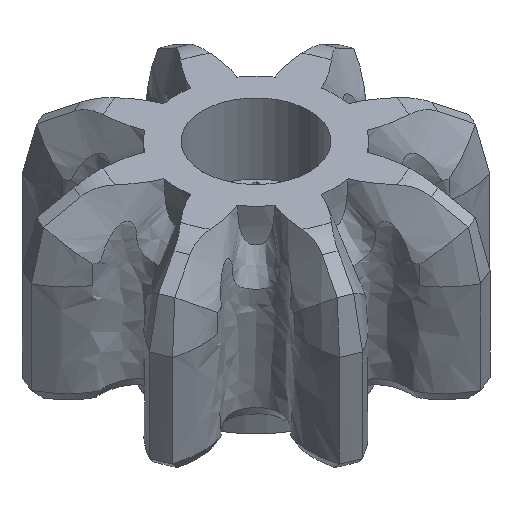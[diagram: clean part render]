
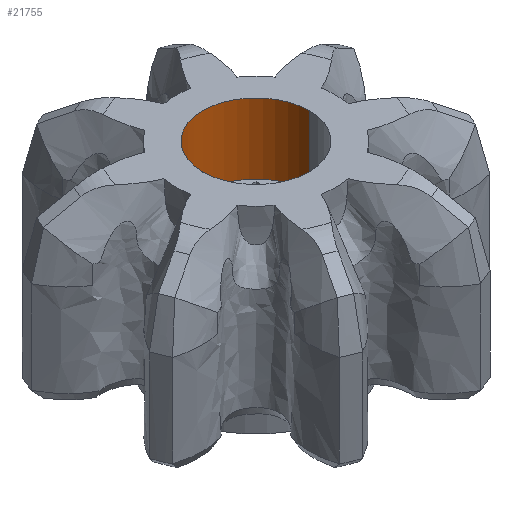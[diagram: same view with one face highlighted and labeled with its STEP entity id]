
A CAD part, isometric view. The second image highlights one B-rep face of the part: STEP entity #21755.
In plain terms, the highlighted cylindrical face has radius 2.4 mm (diameter 4.8 mm), a partial arc.
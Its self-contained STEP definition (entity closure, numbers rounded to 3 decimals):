
#1206 = AXIS2_PLACEMENT_3D ( 'NONE', #7380, #16489, #18064 ) ;
#1699 = CARTESIAN_POINT ( 'NONE',  ( 2.4, 0., 5.461 ) ) ;
#2007 = LINE ( 'NONE', #12082, #18624 ) ;
#2301 = EDGE_CURVE ( 'NONE', #9745, #5491, #2007, .T. ) ;
#3893 = DIRECTION ( 'NONE',  ( 0., 0., 1. ) ) ;
#3987 = DIRECTION ( 'NONE',  ( 1., 0., 0. ) ) ;
#4032 = CIRCLE ( 'NONE', #1206, 2.4 ) ;
#4116 = FACE_OUTER_BOUND ( 'NONE', #6185, .T. ) ;
#4226 = CARTESIAN_POINT ( 'NONE',  ( 0., 0., 9.525 ) ) ;
#4431 = DIRECTION ( 'NONE',  ( 0., 0., -1. ) ) ;
#5491 = VERTEX_POINT ( 'NONE', #1699 ) ;
#5947 = EDGE_CURVE ( 'NONE', #20197, #5491, #10078, .T. ) ;
#6185 = EDGE_LOOP ( 'NONE', ( #8698, #12411, #8845, #12528 ) ) ;
#7182 = CARTESIAN_POINT ( 'NONE',  ( 0., 0., 5.461 ) ) ;
#7380 = CARTESIAN_POINT ( 'NONE',  ( 0., 0., 2.286 ) ) ;
#8653 = EDGE_CURVE ( 'NONE', #10246, #20197, #17830, .T. ) ;
#8698 = ORIENTED_EDGE ( 'NONE', *, *, #8653, .F. ) ;
#8845 = ORIENTED_EDGE ( 'NONE', *, *, #2301, .T. ) ;
#9360 = DIRECTION ( 'NONE',  ( 0., 0., 1. ) ) ;
#9395 = AXIS2_PLACEMENT_3D ( 'NONE', #7182, #4431, #3987 ) ;
#9442 = VECTOR ( 'NONE', #9360, 1000. ) ;
#9745 = VERTEX_POINT ( 'NONE', #16411 ) ;
#10078 = CIRCLE ( 'NONE', #9395, 2.4 ) ;
#10246 = VERTEX_POINT ( 'NONE', #12016 ) ;
#12016 = CARTESIAN_POINT ( 'NONE',  ( -2.4, 0., 2.286 ) ) ;
#12082 = CARTESIAN_POINT ( 'NONE',  ( 2.4, 0., 9.525 ) ) ;
#12411 = ORIENTED_EDGE ( 'NONE', *, *, #17646, .F. ) ;
#12528 = ORIENTED_EDGE ( 'NONE', *, *, #5947, .F. ) ;
#12580 = CARTESIAN_POINT ( 'NONE',  ( -2.4, 0., 9.525 ) ) ;
#16093 = DIRECTION ( 'NONE',  ( 1., 0., 0. ) ) ;
#16205 = CYLINDRICAL_SURFACE ( 'NONE', #21457, 2.4 ) ;
#16411 = CARTESIAN_POINT ( 'NONE',  ( 2.4, 0., 2.286 ) ) ;
#16489 = DIRECTION ( 'NONE',  ( 0., 0., 1. ) ) ;
#17646 = EDGE_CURVE ( 'NONE', #9745, #10246, #4032, .T. ) ;
#17830 = LINE ( 'NONE', #12580, #9442 ) ;
#17886 = DIRECTION ( 'NONE',  ( 0., 0., 1. ) ) ;
#18064 = DIRECTION ( 'NONE',  ( 1., 0., 0. ) ) ;
#18624 = VECTOR ( 'NONE', #3893, 1000. ) ;
#20197 = VERTEX_POINT ( 'NONE', #21368 ) ;
#21368 = CARTESIAN_POINT ( 'NONE',  ( -2.4, 0., 5.461 ) ) ;
#21457 = AXIS2_PLACEMENT_3D ( 'NONE', #4226, #17886, #16093 ) ;
#21755 = ADVANCED_FACE ( 'NONE', ( #4116 ), #16205, .F. ) ;
